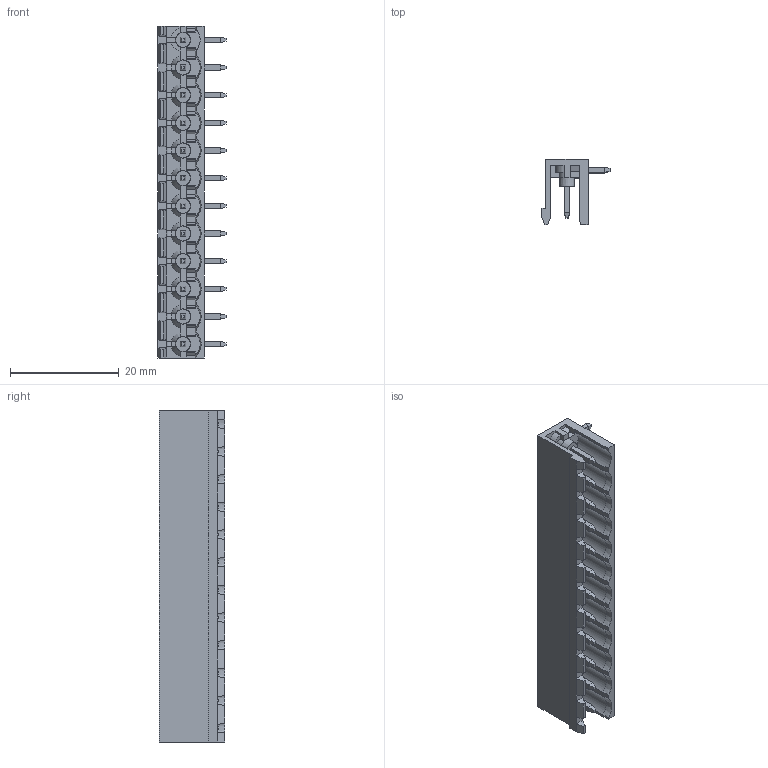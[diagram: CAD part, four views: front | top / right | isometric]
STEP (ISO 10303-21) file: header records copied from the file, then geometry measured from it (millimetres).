
FILE_DESCRIPTION (( 'STEP AP203' ), '1' );
FILE_NAME ('BR8MN1-12.STEP', '2020-03-18T03:18:28', ( '' ), ( '' ), 'SwSTEP 2.0', 'SolidWorks 2019', '' );
FILE_SCHEMA (( 'CONFIG_CONTROL_DESIGN' ));
Length unit declared in the file: millimetre
Products named in the file (1): BR8MN1-12
Bounding box: 12.5 x 12 x 60.96 mm (x, y, z)
Volume: 2328.5 mm3; surface area: 5210.7 mm2
Topology: 1 solids, 1 shells, 1015 faces, 2646 edges, 1633 vertices
Faces by surface type: plane 873, cylinder 61, cone 57, sphere 24
Entity records: 30188 total; most frequent: CARTESIAN_POINT 5752, ORIENTED_EDGE 5196, DIRECTION 4757, EDGE_CURVE 2598, LINE 2221, VECTOR 2221, VERTEX_POINT 1609, AXIS2_PLACEMENT_3D 1268
